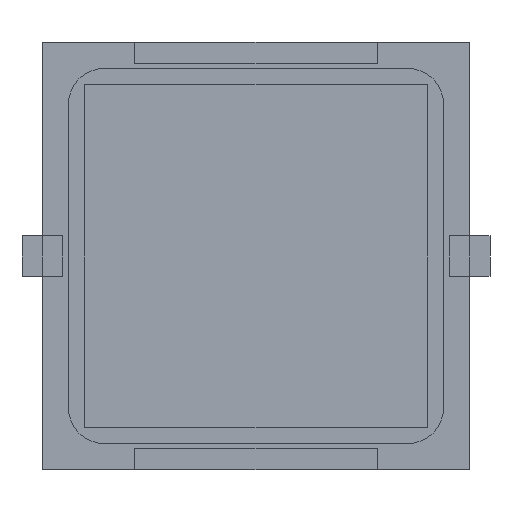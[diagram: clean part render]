
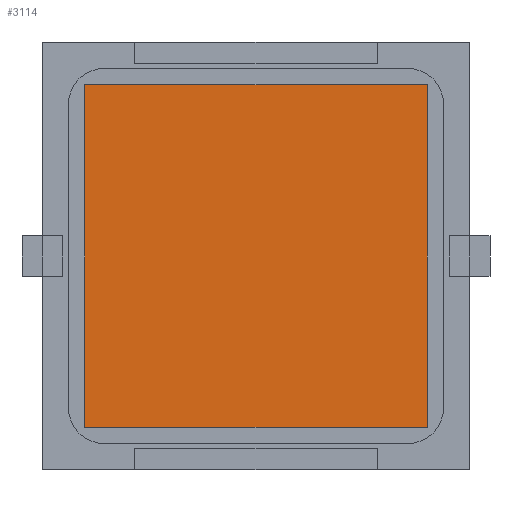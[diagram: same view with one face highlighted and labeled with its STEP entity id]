
A CAD part, front view. The second image highlights one B-rep face of the part: STEP entity #3114.
In plain terms, the highlighted planar face has unit normal (0, -1, 0).
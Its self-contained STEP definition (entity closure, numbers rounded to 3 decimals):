
#143 = EDGE_LOOP ( 'NONE', ( #1687, #3025, #3151, #3975 ) ) ;
#225 = CARTESIAN_POINT ( 'NONE',  ( -8.5, -0.1, 8.5 ) ) ;
#419 = LINE ( 'NONE', #3469, #2287 ) ;
#510 = LINE ( 'NONE', #3509, #1111 ) ;
#555 = CARTESIAN_POINT ( 'NONE',  ( 8.5, -0.1, -8.5 ) ) ;
#637 = DIRECTION ( 'NONE',  ( 1., 0., 0. ) ) ;
#767 = EDGE_CURVE ( 'NONE', #895, #3367, #4445, .T. ) ;
#895 = VERTEX_POINT ( 'NONE', #3701 ) ;
#1111 = VECTOR ( 'NONE', #1991, 1000. ) ;
#1228 = DIRECTION ( 'NONE',  ( 0., 0., 1. ) ) ;
#1687 = ORIENTED_EDGE ( 'NONE', *, *, #4843, .F. ) ;
#1776 = CARTESIAN_POINT ( 'NONE',  ( -8.5, -0.1, -8.5 ) ) ;
#1991 = DIRECTION ( 'NONE',  ( -1., 0., 0. ) ) ;
#2106 = AXIS2_PLACEMENT_3D ( 'NONE', #225, #4737, #4635 ) ;
#2287 = VECTOR ( 'NONE', #1228, 1000. ) ;
#2507 = VECTOR ( 'NONE', #637, 1000. ) ;
#2512 = VERTEX_POINT ( 'NONE', #555 ) ;
#2734 = CARTESIAN_POINT ( 'NONE',  ( 8.5, -0.1, 8.5 ) ) ;
#2808 = LINE ( 'NONE', #3996, #3380 ) ;
#3025 = ORIENTED_EDGE ( 'NONE', *, *, #4049, .F. ) ;
#3114 = ADVANCED_FACE ( 'NONE', ( #4342 ), #4706, .F. ) ;
#3151 = ORIENTED_EDGE ( 'NONE', *, *, #3866, .F. ) ;
#3367 = VERTEX_POINT ( 'NONE', #2734 ) ;
#3380 = VECTOR ( 'NONE', #3892, 1000. ) ;
#3469 = CARTESIAN_POINT ( 'NONE',  ( -8.5, -0.1, -8.5 ) ) ;
#3509 = CARTESIAN_POINT ( 'NONE',  ( -8.5, -0.1, -8.5 ) ) ;
#3701 = CARTESIAN_POINT ( 'NONE',  ( -8.5, -0.1, 8.5 ) ) ;
#3728 = VERTEX_POINT ( 'NONE', #1776 ) ;
#3866 = EDGE_CURVE ( 'NONE', #3367, #2512, #2808, .T. ) ;
#3892 = DIRECTION ( 'NONE',  ( 0., 0., -1. ) ) ;
#3975 = ORIENTED_EDGE ( 'NONE', *, *, #767, .F. ) ;
#3996 = CARTESIAN_POINT ( 'NONE',  ( 8.5, -0.1, -8.5 ) ) ;
#4049 = EDGE_CURVE ( 'NONE', #2512, #3728, #510, .T. ) ;
#4342 = FACE_OUTER_BOUND ( 'NONE', #143, .T. ) ;
#4445 = LINE ( 'NONE', #4736, #2507 ) ;
#4635 = DIRECTION ( 'NONE',  ( 0., 0., 1. ) ) ;
#4706 = PLANE ( 'NONE',  #2106 ) ;
#4736 = CARTESIAN_POINT ( 'NONE',  ( -8.5, -0.1, 8.5 ) ) ;
#4737 = DIRECTION ( 'NONE',  ( 0., 1., 0. ) ) ;
#4843 = EDGE_CURVE ( 'NONE', #3728, #895, #419, .T. ) ;
